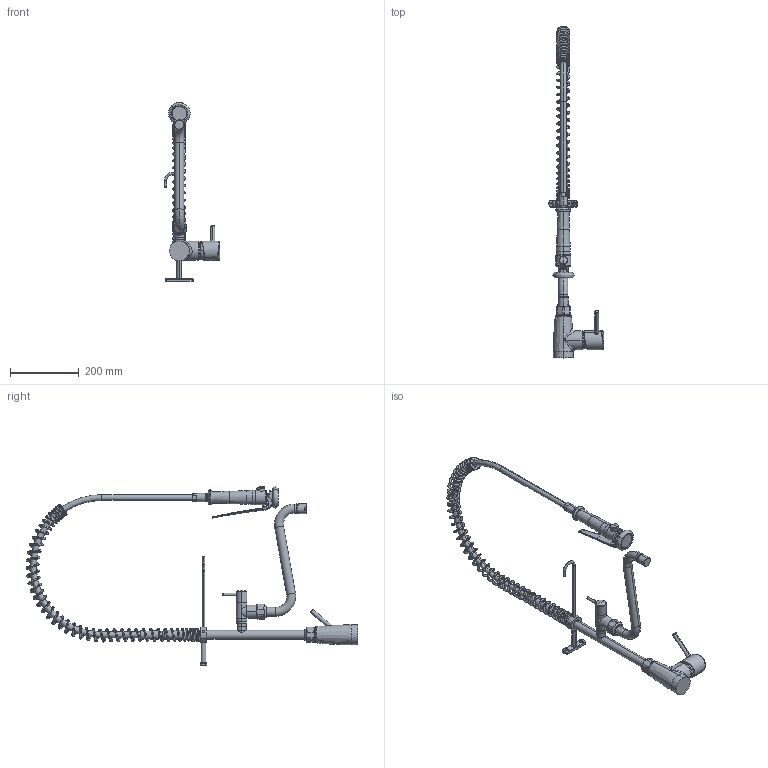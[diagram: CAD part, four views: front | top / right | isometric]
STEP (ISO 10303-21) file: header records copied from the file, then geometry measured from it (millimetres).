
FILE_DESCRIPTION((''),'2;1');
FILE_NAME('125568','2023-09-14T13:54:09',('YY993'),(''),'CREO PARAMETRIC BY PTC INC, 2022244','CREO PARAMETRIC BY PTC INC, 2022244','');
FILE_SCHEMA(('CONFIG_CONTROL_DESIGN'));
Products named in the file (1): 125568
Bounding box: 160.85 x 967.06 x 521.39 mm (x, y, z)
Volume: 1877354 mm3; surface area: 347843.9 mm2
Topology: 4 solids, 5 shells, 802 faces, 1964 edges, 1188 vertices
Faces by surface type: cylinder 215, plane 172, bspline 166, torus 138, cone 69, sphere 30, revolution 8, extrusion 4
Entity records: 53932 total; most frequent: CARTESIAN_POINT 36526, ORIENTED_EDGE 3878, DIRECTION 3314, EDGE_CURVE 1939, AXIS2_PLACEMENT_3D 1427, VERTEX_POINT 1188, EDGE_LOOP 851, FACE_OUTER_BOUND 802
